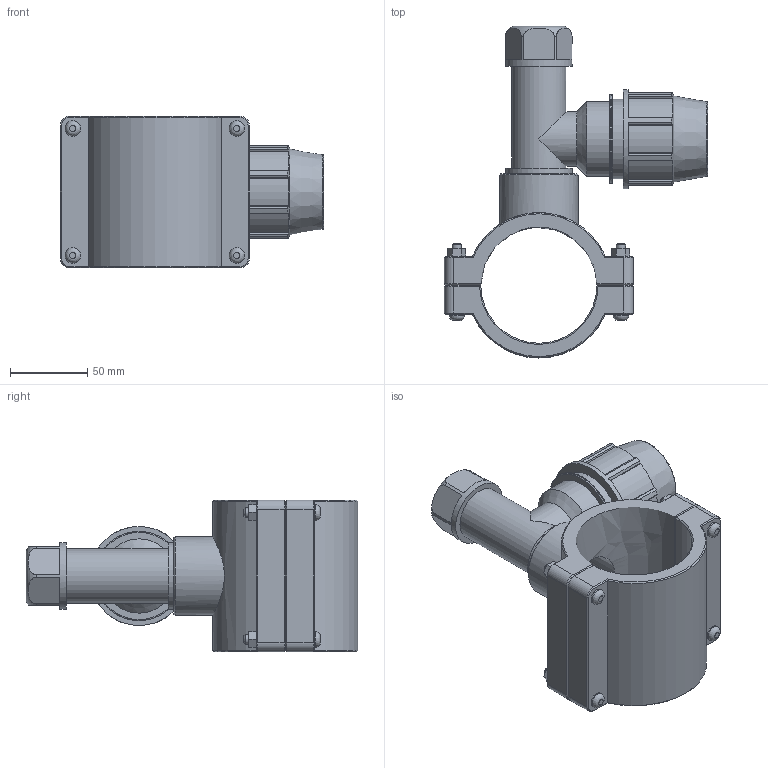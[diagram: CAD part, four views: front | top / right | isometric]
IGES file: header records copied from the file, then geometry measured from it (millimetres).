
Global section: file name: 165400075032_165406075032.ipt; native system: Autodesk Inventor 2015; preprocessor: unknown; author: KIM; date: 20170618.093856; units: millimetre
Bounding box: 170 x 214.38 x 98 mm (x, y, z)
Volume: 552804.7 mm3; surface area: 134123.5 mm2
Topology: 1 solids, 1 shells, 232 faces, 582 edges, 378 vertices
Faces by surface type: plane 145, cylinder 42, cone 28, revolution 17
Full cylindrical faces by diameter (mm): 6 x4, 10 x8, 35.057 x2, 38.952 x1, 42.847 x2, 48 x1, 50.638 x1, 51.2 x1, 57.6 x1, 64 x1
